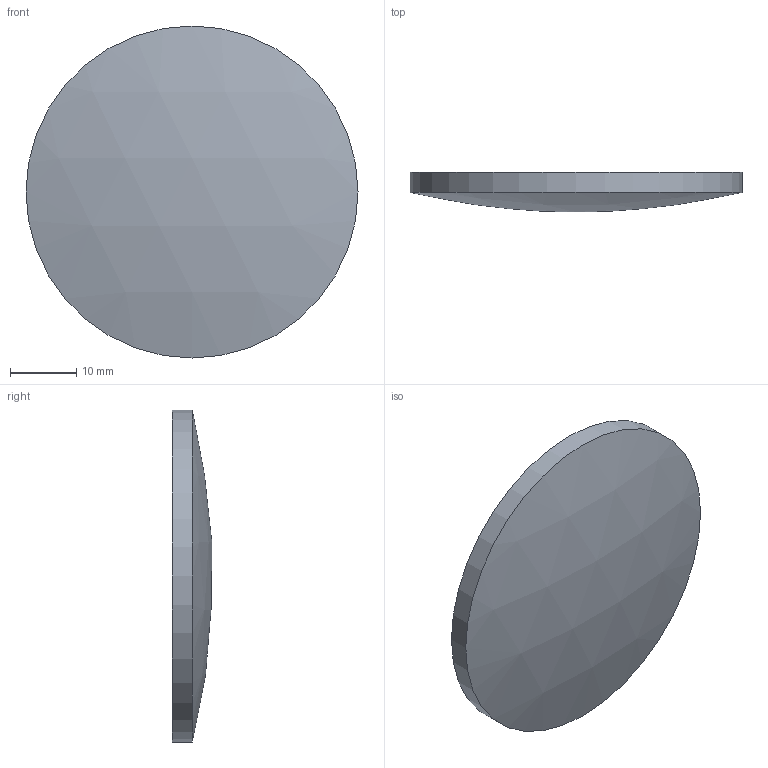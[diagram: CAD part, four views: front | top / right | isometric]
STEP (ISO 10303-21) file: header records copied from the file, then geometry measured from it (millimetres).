
FILE_DESCRIPTION((''),'2;1');
FILE_NAME('Y:\メカ関係\2能登便\素子ﾓﾃﾞﾙ（角屋さま野中さま⇒川島）\5月分\1_球面平凸レンズ-BK7\SLB-P\φ50\SLB-50-200P\SLB-50-200P.stp','2009-05-22T13:17:50',('usernoto011'),(''),'Autodesk Inventor 2008','Autodesk Inventor 2008','');
FILE_SCHEMA(('AUTOMOTIVE_DESIGN { 1 0 10303 214 1 1 1 1 }'));
Length unit declared in the file: millimetre
Products named in the file (1): SLB-50-200P
Bounding box: 50 x 5.98 x 50 mm (x, y, z)
Volume: 8992.4 mm3; surface area: 4434.6 mm2
Topology: 1 solids, 1 shells, 3 faces, 3 edges, 2 vertices
Faces by surface type: sphere 1, cylinder 1, plane 1
Full cylindrical faces by diameter (mm): 50 x1
Entity records: 80 total; most frequent: DIRECTION 12, CARTESIAN_POINT 8, AXIS2_PLACEMENT_3D 6, ORIENTED_EDGE 4, EDGE_LOOP 4, FACE_OUTER_BOUND 3, ADVANCED_FACE 3, DIMENSIONAL_EXPONENTS 2
